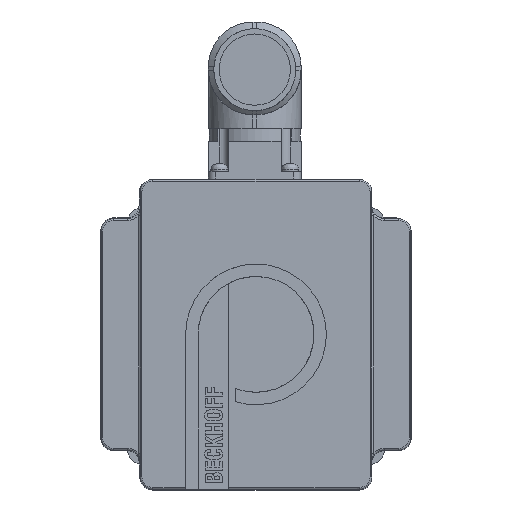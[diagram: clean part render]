
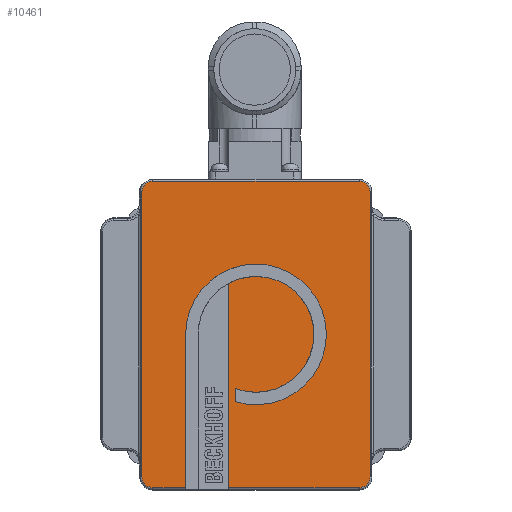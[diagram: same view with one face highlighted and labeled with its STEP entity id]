
A CAD part, top view. The second image highlights one B-rep face of the part: STEP entity #10461.
In plain terms, the highlighted planar face has unit normal (0, 0, 1).
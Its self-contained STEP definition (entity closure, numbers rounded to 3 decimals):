
#550=PLANE('',#11298);
#1048=FACE_OUTER_BOUND('',#1663,.T.);
#1663=EDGE_LOOP('',(#8390,#8391,#8392,#8393,#8394,#8395,#8396,#8397,#8398,
#8399,#8400,#8401,#8402,#8403));
#2416=LINE('',#18070,#3286);
#2423=LINE('',#18088,#3293);
#2425=LINE('',#18096,#3295);
#2431=LINE('',#18109,#3301);
#2454=LINE('',#18435,#3324);
#2457=LINE('',#18450,#3327);
#2459=LINE('',#18461,#3329);
#2460=LINE('',#18468,#3330);
#3286=VECTOR('',#13163,10.);
#3293=VECTOR('',#13178,10.);
#3295=VECTOR('',#13188,10.);
#3301=VECTOR('',#13202,10.);
#3324=VECTOR('',#13335,10.);
#3327=VECTOR('',#13352,10.);
#3329=VECTOR('',#13366,10.);
#3330=VECTOR('',#13377,10.);
#3850=CIRCLE('',#11213,16.25);
#3851=CIRCLE('',#11216,19.75);
#3889=CIRCLE('',#11278,3.);
#3893=CIRCLE('',#11284,3.);
#3897=CIRCLE('',#11290,3.);
#3899=CIRCLE('',#11294,3.);
#4643=VERTEX_POINT('',#18067);
#4644=VERTEX_POINT('',#18069);
#4650=VERTEX_POINT('',#18085);
#4651=VERTEX_POINT('',#18087);
#4652=VERTEX_POINT('',#18091);
#4653=VERTEX_POINT('',#18095);
#4656=VERTEX_POINT('',#18108);
#4695=VERTEX_POINT('',#18432);
#4696=VERTEX_POINT('',#18434);
#4698=VERTEX_POINT('',#18440);
#4700=VERTEX_POINT('',#18446);
#4702=VERTEX_POINT('',#18452);
#4703=VERTEX_POINT('',#18457);
#4705=VERTEX_POINT('',#18463);
#5889=EDGE_CURVE('',#4644,#4643,#2416,.T.);
#5898=EDGE_CURVE('',#4651,#4650,#2423,.T.);
#5900=EDGE_CURVE('',#4652,#4644,#3850,.T.);
#5902=EDGE_CURVE('',#4653,#4652,#2425,.T.);
#5904=EDGE_CURVE('',#4650,#4653,#3851,.T.);
#5909=EDGE_CURVE('',#4651,#4656,#2431,.T.);
#5974=EDGE_CURVE('',#4695,#4696,#2454,.T.);
#5979=EDGE_CURVE('',#4696,#4698,#3889,.T.);
#5982=EDGE_CURVE('',#4698,#4700,#2457,.T.);
#5985=EDGE_CURVE('',#4700,#4702,#3893,.T.);
#5988=EDGE_CURVE('',#4702,#4703,#2459,.T.);
#5991=EDGE_CURVE('',#4703,#4705,#3897,.T.);
#5992=EDGE_CURVE('',#4705,#4643,#2460,.T.);
#5994=EDGE_CURVE('',#4656,#4695,#3899,.T.);
#8390=ORIENTED_EDGE('',*,*,#5889,.T.);
#8391=ORIENTED_EDGE('',*,*,#5992,.F.);
#8392=ORIENTED_EDGE('',*,*,#5991,.F.);
#8393=ORIENTED_EDGE('',*,*,#5988,.F.);
#8394=ORIENTED_EDGE('',*,*,#5985,.F.);
#8395=ORIENTED_EDGE('',*,*,#5982,.F.);
#8396=ORIENTED_EDGE('',*,*,#5979,.F.);
#8397=ORIENTED_EDGE('',*,*,#5974,.F.);
#8398=ORIENTED_EDGE('',*,*,#5994,.F.);
#8399=ORIENTED_EDGE('',*,*,#5909,.F.);
#8400=ORIENTED_EDGE('',*,*,#5898,.T.);
#8401=ORIENTED_EDGE('',*,*,#5904,.T.);
#8402=ORIENTED_EDGE('',*,*,#5902,.T.);
#8403=ORIENTED_EDGE('',*,*,#5900,.T.);
#10461=ADVANCED_FACE('',(#1048),#550,.T.);
#11213=AXIS2_PLACEMENT_3D('',#18092,#13183,#13184);
#11216=AXIS2_PLACEMENT_3D('',#18099,#13192,#13193);
#11278=AXIS2_PLACEMENT_3D('',#18444,#13345,#13346);
#11284=AXIS2_PLACEMENT_3D('',#18455,#13359,#13360);
#11290=AXIS2_PLACEMENT_3D('',#18466,#13373,#13374);
#11294=AXIS2_PLACEMENT_3D('',#18471,#13382,#13383);
#11298=AXIS2_PLACEMENT_3D('',#18478,#13393,#13394);
#13163=DIRECTION('',(0.,-1.,0.));
#13178=DIRECTION('',(0.,1.,0.));
#13183=DIRECTION('center_axis',(0.,0.,
1.));
#13184=DIRECTION('ref_axis',(0.354,0.935,0.));
#13188=DIRECTION('',(0.,1.,0.));
#13192=DIRECTION('center_axis',(0.,0.,
-1.));
#13193=DIRECTION('ref_axis',(-0.291,-0.957,0.));
#13202=DIRECTION('',(-1.,0.,0.));
#13335=DIRECTION('',(0.,1.,0.));
#13345=DIRECTION('center_axis',(0.,0.,
-1.));
#13346=DIRECTION('ref_axis',(-0.707,0.707,0.));
#13352=DIRECTION('',(1.,0.,0.));
#13359=DIRECTION('center_axis',(0.,0.,
-1.));
#13360=DIRECTION('ref_axis',(0.707,0.707,0.));
#13366=DIRECTION('',(0.,-1.,0.));
#13373=DIRECTION('center_axis',(0.,0.,
-1.));
#13374=DIRECTION('ref_axis',(0.707,-0.707,0.));
#13377=DIRECTION('',(-1.,0.,0.));
#13382=DIRECTION('center_axis',(0.,0.,
-1.));
#13383=DIRECTION('ref_axis',(-0.707,-0.707,0.));
#13393=DIRECTION('center_axis',(0.,0.,
1.));
#13394=DIRECTION('ref_axis',(1.,0.,0.));
#18067=CARTESIAN_POINT('',(-7.75,-43.,241.3));
#18069=CARTESIAN_POINT('',(-7.75,14.283,241.3));
#18070=CARTESIAN_POINT('',(-7.75,-22.905,241.3));
#18085=CARTESIAN_POINT('',(-19.75,0.,241.3));
#18087=CARTESIAN_POINT('',(-19.75,-43.,241.3));
#18088=CARTESIAN_POINT('',(-19.75,0.,241.3));
#18091=CARTESIAN_POINT('',(-5.75,-15.199,241.3));
#18092=CARTESIAN_POINT('Origin',(0.,0.,
241.3));
#18095=CARTESIAN_POINT('',(-5.75,-18.894,241.3));
#18096=CARTESIAN_POINT('',(-5.75,-7.599,241.3));
#18099=CARTESIAN_POINT('Origin',(0.,0.,
241.3));
#18108=CARTESIAN_POINT('',(-29.,-43.,241.3));
#18109=CARTESIAN_POINT('',(16.25,-43.,241.3));
#18432=CARTESIAN_POINT('',(-32.,-40.,241.3));
#18434=CARTESIAN_POINT('',(-32.,40.,241.3));
#18435=CARTESIAN_POINT('',(-32.,18.,241.3));
#18440=CARTESIAN_POINT('',(-29.,43.,241.3));
#18444=CARTESIAN_POINT('Origin',(-29.,40.,241.3));
#18446=CARTESIAN_POINT('',(29.,43.,241.3));
#18450=CARTESIAN_POINT('',(-16.25,43.,241.3));
#18452=CARTESIAN_POINT('',(32.,40.,241.3));
#18455=CARTESIAN_POINT('Origin',(29.,40.,241.3));
#18457=CARTESIAN_POINT('',(32.,-40.,241.3));
#18461=CARTESIAN_POINT('',(32.,21.75,241.3));
#18463=CARTESIAN_POINT('',(29.,-43.,241.3));
#18466=CARTESIAN_POINT('Origin',(29.,-40.,241.3));
#18468=CARTESIAN_POINT('',(16.25,-43.,241.3));
#18471=CARTESIAN_POINT('Origin',(-29.,-40.,241.3));
#18478=CARTESIAN_POINT('Origin',(0.,0.,
241.3));
